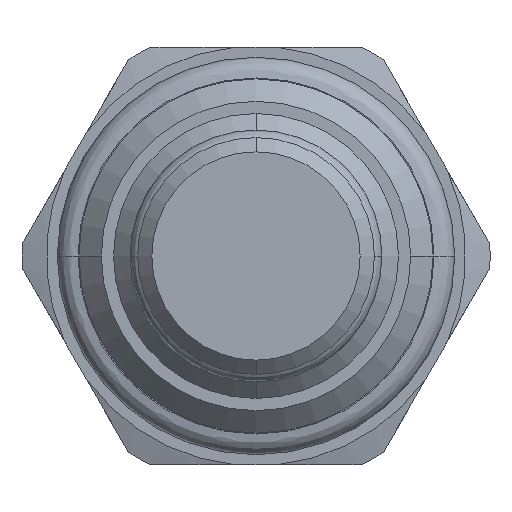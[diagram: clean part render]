
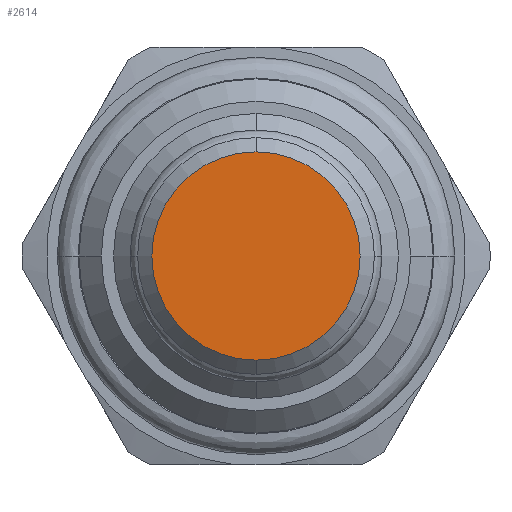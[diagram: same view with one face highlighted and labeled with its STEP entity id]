
A CAD part, front view. The second image highlights one B-rep face of the part: STEP entity #2614.
In plain terms, the highlighted planar face has unit normal (0, -1, 0).
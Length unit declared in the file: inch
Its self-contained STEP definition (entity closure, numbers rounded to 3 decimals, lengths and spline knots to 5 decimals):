
#971=CARTESIAN_POINT('',(0.,-1.091,0.));
#972=DIRECTION('',(0.,1.,0.));
#973=DIRECTION('',(0.,0.,-1.));
#974=AXIS2_PLACEMENT_3D('',#971,#972,#973);
#981=CARTESIAN_POINT('',(0.,-1.091,0.));
#982=DIRECTION('',(0.,1.,0.));
#983=DIRECTION('',(0.,0.,1.));
#984=AXIS2_PLACEMENT_3D('',#981,#982,#983);
#1107=CARTESIAN_POINT('',(0.,-1.091,-0.2185));
#1108=CARTESIAN_POINT('',(0.,-1.091,0.2185));
#1109=VERTEX_POINT('',#1107);
#1110=VERTEX_POINT('',#1108);
#2604=CARTESIAN_POINT('',(0.,-1.091,0.));
#2605=DIRECTION('',(0.,1.,0.));
#2606=DIRECTION('',(0.,0.,-1.));
#2607=AXIS2_PLACEMENT_3D('',#2604,#2605,#2606);
#2608=PLANE('',#2607);
#2609=ORIENTED_EDGE('',*,*,#2594,.T.);
#2611=ORIENTED_EDGE('',*,*,#2610,.T.);
#2612=EDGE_LOOP('',(#2609,#2611));
#2613=FACE_OUTER_BOUND('',#2612,.F.);
#2614=ADVANCED_FACE('',(#2613),#2608,.F.);
#975=CIRCLE('',#974,0.2185);
#985=CIRCLE('',#984,0.2185);
#2594=EDGE_CURVE('',#1109,#1110,#975,.T.);
#2610=EDGE_CURVE('',#1110,#1109,#985,.T.);
